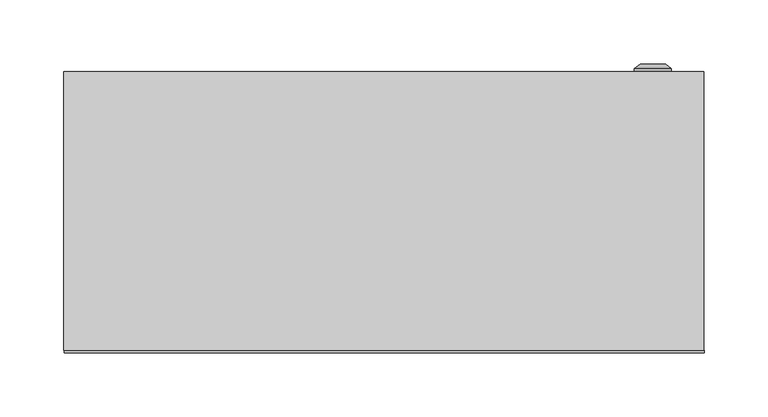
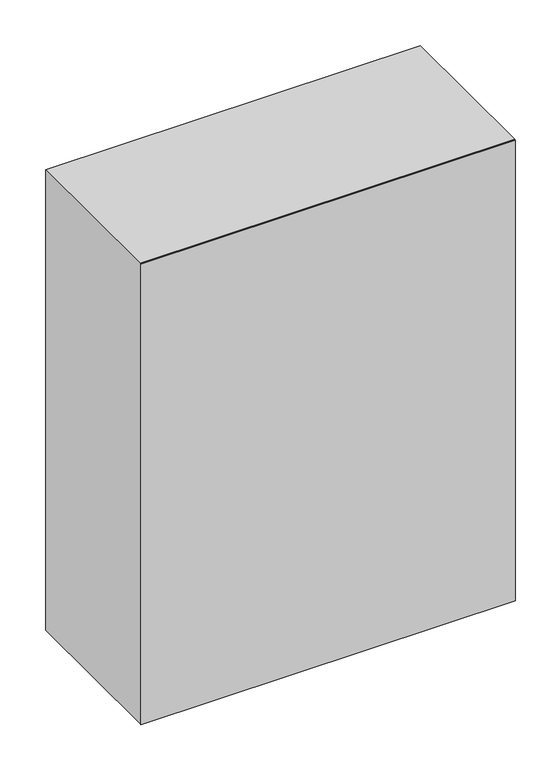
"""IFC4 building model written with IfcOpenShell, lengths in millimetres: proxy geometry, ЩМП : ЩМП-3-0_650х500х220."""

from ifc_helpers import new_model, si_unit, frame, origin, origin_with_axes, place, context, project, spatial, polyline, circle_curve, outline, extrude, source, transform, mapped, element, save
from ifc_brep_helpers import plane_surface, cylinder_surface, revolved_surface, advanced_brep


def electrical_equipment_dd45281c(model_context):
    return source(origin(), model_context, "Body", "SolidModel", [
        advanced_brep(
        [(195.669873, 220.0, 325.0), (224.330127, 220.0, 325.0), (210.0, 220.0, 325.0), (195.669873, 222.366592, 325.0), (224.330127, 222.366592, 325.0), (200.0, 226.0, 325.0), (220.0, 226.0, 325.0), (208.1080471, 226.0, 325.0), (211.8919529, 226.0, 325.0), (208.1080471, 224.9822294, 325.0), (211.8919529, 224.9822294, 325.0), (210.0, 224.9822294, 325.0)],
        [
            (0, 1, circle_curve(frame((210.0, 220.0, 325.0), z_axis=(0.0, -1.0, 0.0), x_axis=(1.0, 0.0, 0.0)), 14.330127)),
            (1, 2),
            (2, 0),
            (1, 0, circle_curve(frame((210.0, 220.0, 325.0), z_axis=(0.0, -1.0, 0.0), x_axis=(1.0, 0.0, 0.0)), 14.330127)),
            (3, 4, circle_curve(frame((210.0, 222.366592, 325.0), z_axis=(0.0, -1.0, 0.0), x_axis=(1.0, 0.0, 0.0)), 14.330127)),
            (4, 1),
            (0, 3),
            (4, 3, circle_curve(frame((210.0, 222.366592, 325.0), z_axis=(0.0, -1.0, 0.0), x_axis=(1.0, 0.0, 0.0)), 14.330127)),
            (5, 6, circle_curve(frame((210.0, 226.0, 325.0), z_axis=(0.0, -1.0, 0.0), x_axis=(1.0, 0.0, 0.0)), 10.0)),
            (6, 4),
            (3, 5),
            (6, 5, circle_curve(frame((210.0, 226.0, 325.0), z_axis=(0.0, -1.0, 0.0), x_axis=(1.0, 0.0, 0.0)), 10.0)),
            (7, 8, circle_curve(frame((210.0, 226.0, 325.0), z_axis=(0.0, -1.0, 0.0), x_axis=(1.0, 0.0, 0.0)), 1.8919529)),
            (8, 6),
            (5, 7),
            (8, 7, circle_curve(frame((210.0, 226.0, 325.0), z_axis=(0.0, -1.0, 0.0), x_axis=(1.0, 0.0, 0.0)), 1.8919529)),
            (9, 10, circle_curve(frame((210.0, 224.9822294, 325.0), z_axis=(0.0, -1.0, 0.0), x_axis=(1.0, 0.0, 0.0)), 1.8919529)),
            (10, 8),
            (7, 9),
            (10, 9, circle_curve(frame((210.0, 224.9822294, 325.0), z_axis=(0.0, -1.0, 0.0), x_axis=(1.0, 0.0, 0.0)), 1.8919529)),
            (11, 10),
            (9, 11),
        ],
        [
            plane_surface(frame((210.0, 220.0, 325.0), z_axis=(0.0, -1.0, 0.0), x_axis=(1.0, 0.0, 0.0))),
            cylinder_surface(frame((210.0, 233.1348851, 325.0), z_axis=(0.0, 1.0, 0.0), x_axis=(1.0, 0.0, 0.0)), 14.330127),
            revolved_surface(polyline([(224.330127, 222.366592, 325.0), (220.0, 226.0, 325.0)]), (210.0, 233.1348851, 325.0), (0.0, 1.0, 0.0)),
            plane_surface(frame((210.0, 226.0, 325.0), z_axis=(0.0, 1.0, 0.0), x_axis=(1.0, 0.0, 0.0))),
            revolved_surface(polyline([(211.8919529, 226.0, 325.0), (211.8919529, 224.9822294, 325.0)]), (210.0, 233.1348851, 325.0), (0.0, 1.0, 0.0)),
            plane_surface(frame((210.0, 224.9822294, 325.0), z_axis=(0.0, 1.0, 0.0), x_axis=(1.0, 0.0, 0.0))),
        ],
        [
            (0, [[1, 2, 3]]),
            (0, [[4, -3, -2]]),
            (1, [[5, 6, -1, 7]]),
            (1, [[8, -7, -4, -6]]),
            (2, [[9, 10, -5, 11]]),
            (2, [[12, -11, -8, -10]]),
            (3, [[13, 14, -9, 15]]),
            (3, [[16, -15, -12, -14]]),
            (4, [[17, 18, -13, 19]]),
            (4, [[20, -19, -16, -18]]),
            (5, [[21, -17, 22]]),
            (5, [[-22, -20, -21]]),
        ],
    ),
        extrude(outline(polyline([(234.0, 195.0), (-234.0, 195.0), (-234.0, 220.0), (234.0, 220.0), (234.0, 195.0)])), frame((0.0, 0.0, 18.5), z_axis=(0.0, 0.0, 1.0), x_axis=(1.0, 0.0, 0.0)), (0.0, 0.0, 1.0), 613.0),
        extrude(outline(polyline([(650.0, -250.0033905), (0.0, -250.0033905), (0.0, 249.9966095), (650.0, 249.9966095), (650.0, -250.0033905)]), holes=[polyline([(615.0, -220.0033905), (615.0, 219.9966095), (35.0, 219.9966095), (35.0, -220.0033905), (615.0, -220.0033905)])]), frame((0.0, 2.0, 0.0), z_axis=(0.0, 1.0, 0.0), x_axis=(0.0, 0.0, 1.0)), (0.0, 0.0, 1.0), 218.0),
        extrude(outline(polyline([(250.0, 0.0), (-250.0, 0.0), (-250.0, 2.0), (250.0, 2.0), (250.0, 0.0)])), origin_with_axes(), (0.0, 0.0, 1.0), 650.0),
    ])


if __name__ == "__main__":
    model = new_model("IFC4")
    model_context = context("Model", 3, world=origin())
    ifc_project = project(units=[si_unit("LENGTHUNIT", "METRE", prefix="MILLI")], contexts=[model_context])
    site = spatial("IfcSite", under=ifc_project)
    building = spatial("IfcBuilding", under=site)
    placement = place(None, origin())
    electrical_equipment_shape = electrical_equipment_dd45281c(model_context)
    element("IfcBuildingElementProxy", 1, Name="ЩМП : ЩМП-3-0_650х500х220", ObjectType="ЩМП : ЩМП-3-0_650х500х220", at=placement, inside=building, context=model_context, shape_type="MappedRepresentation", body=[
        mapped(electrical_equipment_shape, transform((0.0, 0.0, 0.0), x_axis=(1.0, 0.0, 0.0), y_axis=(0.0, 1.0, 0.0), z_axis=(0.0, 0.0, 1.0))),
    ])
    save(model, "model.ifc")
